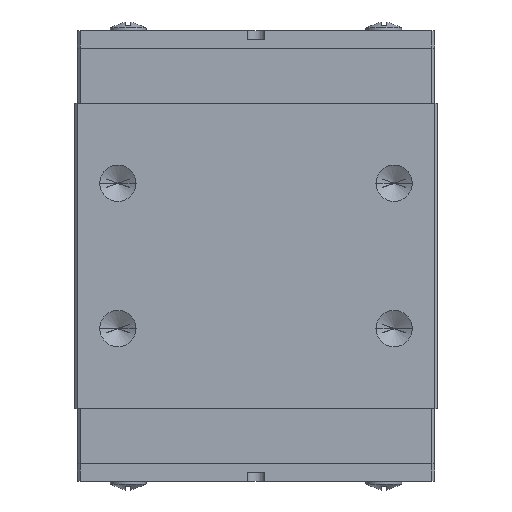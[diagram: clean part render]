
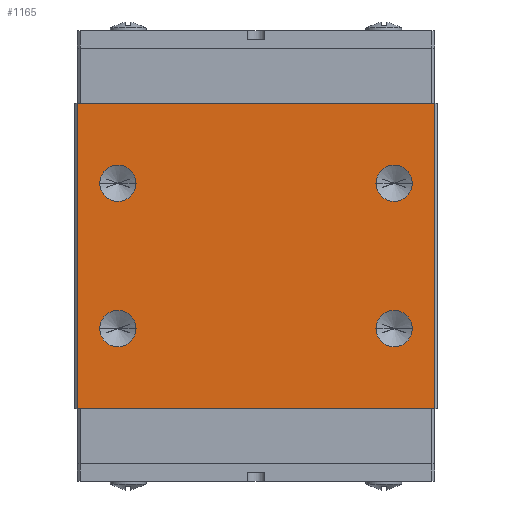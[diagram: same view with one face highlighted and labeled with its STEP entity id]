
A CAD part, top view. The second image highlights one B-rep face of the part: STEP entity #1165.
In plain terms, the highlighted planar face has unit normal (0, 0, 1).
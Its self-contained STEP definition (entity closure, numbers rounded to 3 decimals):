
#1165=ADVANCED_FACE('',(#3370,#3371,#3372,#3373,#3374),#3375,.T.);
#1265=EDGE_CURVE('',#2649,#2665,#3486,.T.);
#1307=EDGE_CURVE('',#2679,#3271,#3532,.T.);
#1407=EDGE_CURVE('',#1883,#1545,#3638,.T.);
#1431=EDGE_CURVE('',#2809,#2821,#3663,.T.);
#1545=VERTEX_POINT('',#3787);
#1883=VERTEX_POINT('',#4161);
#2091=EDGE_CURVE('',#2821,#2809,#4387,.T.);
#2199=EDGE_CURVE('',#2665,#2649,#4510,.T.);
#2299=EDGE_CURVE('',#3271,#2431,#4619,.T.);
#2379=VERTEX_POINT('',#4709);
#2431=VERTEX_POINT('',#4767);
#2649=VERTEX_POINT('',#5009);
#2665=VERTEX_POINT('',#5028);
#2679=VERTEX_POINT('',#5043);
#2681=EDGE_CURVE('',#2679,#2379,#5045,.T.);
#2691=EDGE_CURVE('',#2839,#3107,#5055,.T.);
#2809=VERTEX_POINT('',#5181);
#2821=VERTEX_POINT('',#5194);
#2839=VERTEX_POINT('',#5214);
#2879=EDGE_CURVE('',#3107,#2839,#5256,.T.);
#3003=EDGE_CURVE('',#2379,#2431,#5393,.T.);
#3107=VERTEX_POINT('',#5507);
#3219=EDGE_CURVE('',#1545,#1883,#5630,.T.);
#3271=VERTEX_POINT('',#5687);
#3370=FACE_BOUND('',#5800,.T.);
#3371=FACE_BOUND('',#5801,.T.);
#3372=FACE_BOUND('',#5802,.T.);
#3373=FACE_BOUND('',#5803,.T.);
#3374=FACE_OUTER_BOUND('',#5804,.T.);
#3375=PLANE('',#5805);
#3486=CIRCLE('',#5977,1.25);
#3532=LINE('',#6058,#6059);
#3638=CIRCLE('',#6224,1.25);
#3663=CIRCLE('',#6279,1.25);
#3787=CARTESIAN_POINT('',(-10.75,20.5,9.0));
#4161=CARTESIAN_POINT('',(-8.25,20.5,9.0));
#4387=CIRCLE('',#7465,1.25);
#4510=CIRCLE('',#7687,1.25);
#4619=LINE('',#7860,#7861);
#4709=CARTESIAN_POINT('',(-12.3,5.0,9.0));
#4767=CARTESIAN_POINT('',(12.3,5.0,9.0));
#5009=CARTESIAN_POINT('',(-10.75,10.5,9.0));
#5028=CARTESIAN_POINT('',(-8.25,10.5,9.0));
#5043=CARTESIAN_POINT('',(-12.3,26.0,9.0));
#5045=LINE('',#8483,#8484);
#5055=CIRCLE('',#8497,1.25);
#5181=CARTESIAN_POINT('',(10.75,10.5,9.0));
#5194=CARTESIAN_POINT('',(8.25,10.5,9.0));
#5214=CARTESIAN_POINT('',(10.75,20.5,9.0));
#5256=CIRCLE('',#8821,1.25);
#5393=LINE('',#9010,#9011);
#5507=CARTESIAN_POINT('',(8.25,20.5,9.0));
#5630=CIRCLE('',#9416,1.25);
#5687=CARTESIAN_POINT('',(12.3,26.0,9.0));
#5800=EDGE_LOOP('',(#9636,#9637));
#5801=EDGE_LOOP('',(#9638,#9639));
#5802=EDGE_LOOP('',(#9640,#9641));
#5803=EDGE_LOOP('',(#9642,#9643));
#5804=EDGE_LOOP('',(#9644,#9645,#9646,#9647));
#5805=AXIS2_PLACEMENT_3D('',#9648,#9649,#9650);
#5977=AXIS2_PLACEMENT_3D('',#9786,#9787,#9788);
#6058=CARTESIAN_POINT('',(-12.3,26.0,9.0));
#6059=VECTOR('',#9833,1.0);
#6224=AXIS2_PLACEMENT_3D('',#9922,#9923,#9924);
#6279=AXIS2_PLACEMENT_3D('',#9940,#9941,#9942);
#7465=AXIS2_PLACEMENT_3D('',#10684,#10685,#10686);
#7687=AXIS2_PLACEMENT_3D('',#10827,#10828,#10829);
#7860=CARTESIAN_POINT('',(12.3,26.0,9.0));
#7861=VECTOR('',#10935,1.0);
#8483=CARTESIAN_POINT('',(-12.3,26.0,9.0));
#8484=VECTOR('',#11406,1.0);
#8497=AXIS2_PLACEMENT_3D('',#11408,#11409,#11410);
#8821=AXIS2_PLACEMENT_3D('',#11595,#11596,#11597);
#9010=CARTESIAN_POINT('',(-12.3,5.0,9.0));
#9011=VECTOR('',#11762,1.0);
#9416=AXIS2_PLACEMENT_3D('',#12032,#12033,#12034);
#9636=ORIENTED_EDGE('',*,*,#2691,.T.);
#9637=ORIENTED_EDGE('',*,*,#2879,.T.);
#9638=ORIENTED_EDGE('',*,*,#1431,.T.);
#9639=ORIENTED_EDGE('',*,*,#2091,.T.);
#9640=ORIENTED_EDGE('',*,*,#1407,.T.);
#9641=ORIENTED_EDGE('',*,*,#3219,.T.);
#9642=ORIENTED_EDGE('',*,*,#2199,.T.);
#9643=ORIENTED_EDGE('',*,*,#1265,.T.);
#9644=ORIENTED_EDGE('',*,*,#3003,.T.);
#9645=ORIENTED_EDGE('',*,*,#2299,.F.);
#9646=ORIENTED_EDGE('',*,*,#1307,.F.);
#9647=ORIENTED_EDGE('',*,*,#2681,.T.);
#9648=CARTESIAN_POINT('',(-12.3,26.0,9.0));
#9649=DIRECTION('',(0.0,0.0,1.0));
#9650=DIRECTION('',(-1.0,0.0,-0.0));
#9786=CARTESIAN_POINT('',(-9.5,10.5,9.0));
#9787=DIRECTION('',(0.0,0.0,-1.0));
#9788=DIRECTION('',(1.0,0.0,0.0));
#9833=DIRECTION('',(1.0,0.0,0.0));
#9922=CARTESIAN_POINT('',(-9.5,20.5,9.0));
#9923=DIRECTION('',(0.0,0.0,-1.0));
#9924=DIRECTION('',(1.0,0.0,0.0));
#9940=CARTESIAN_POINT('',(9.5,10.5,9.0));
#9941=DIRECTION('',(0.0,0.0,-1.0));
#9942=DIRECTION('',(1.0,0.0,0.0));
#10684=CARTESIAN_POINT('',(9.5,10.5,9.0));
#10685=DIRECTION('',(0.0,0.0,-1.0));
#10686=DIRECTION('',(1.0,0.0,0.0));
#10827=CARTESIAN_POINT('',(-9.5,10.5,9.0));
#10828=DIRECTION('',(0.0,0.0,-1.0));
#10829=DIRECTION('',(1.0,0.0,0.0));
#10935=DIRECTION('',(0.0,-1.0,0.0));
#11406=DIRECTION('',(0.0,-1.0,0.0));
#11408=CARTESIAN_POINT('',(9.5,20.5,9.0));
#11409=DIRECTION('',(0.0,0.0,-1.0));
#11410=DIRECTION('',(1.0,0.0,0.0));
#11595=CARTESIAN_POINT('',(9.5,20.5,9.0));
#11596=DIRECTION('',(0.0,0.0,-1.0));
#11597=DIRECTION('',(1.0,0.0,0.0));
#11762=DIRECTION('',(1.0,0.0,0.0));
#12032=CARTESIAN_POINT('',(-9.5,20.5,9.0));
#12033=DIRECTION('',(0.0,0.0,-1.0));
#12034=DIRECTION('',(1.0,0.0,0.0));
